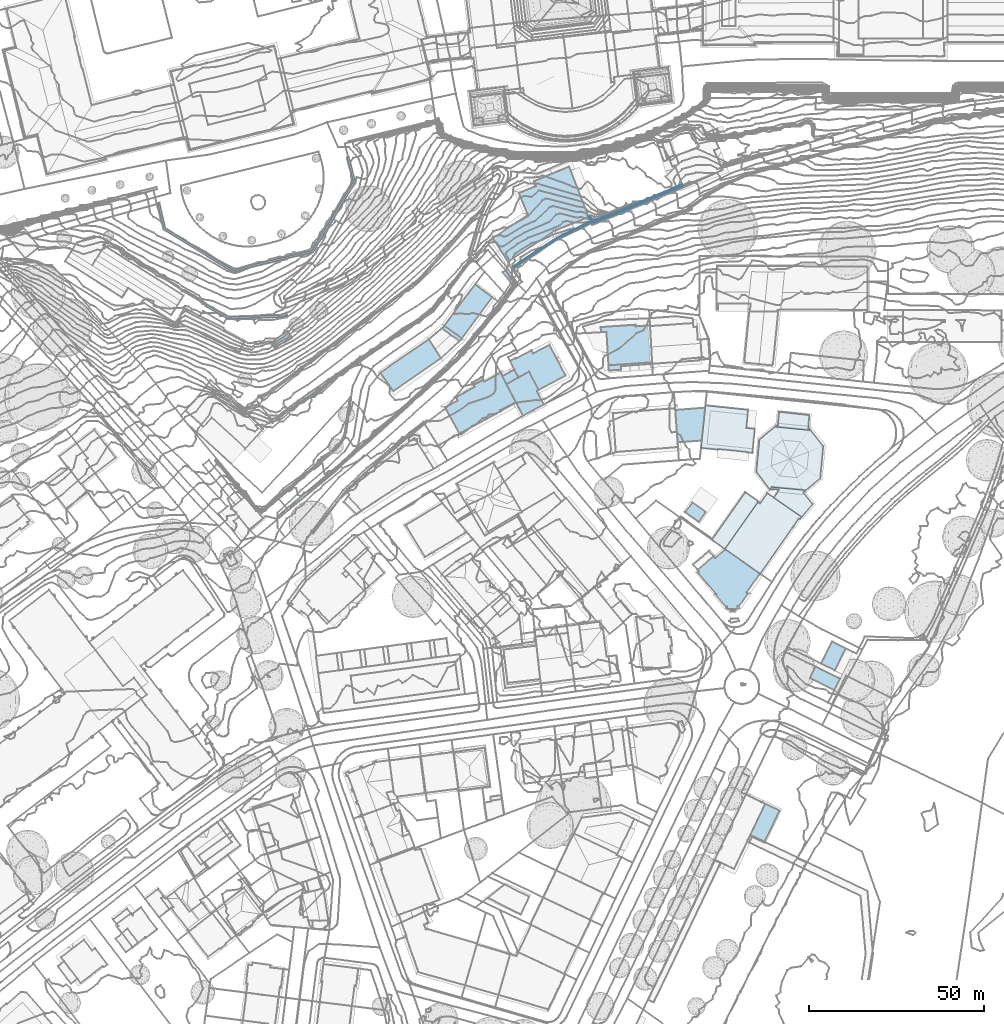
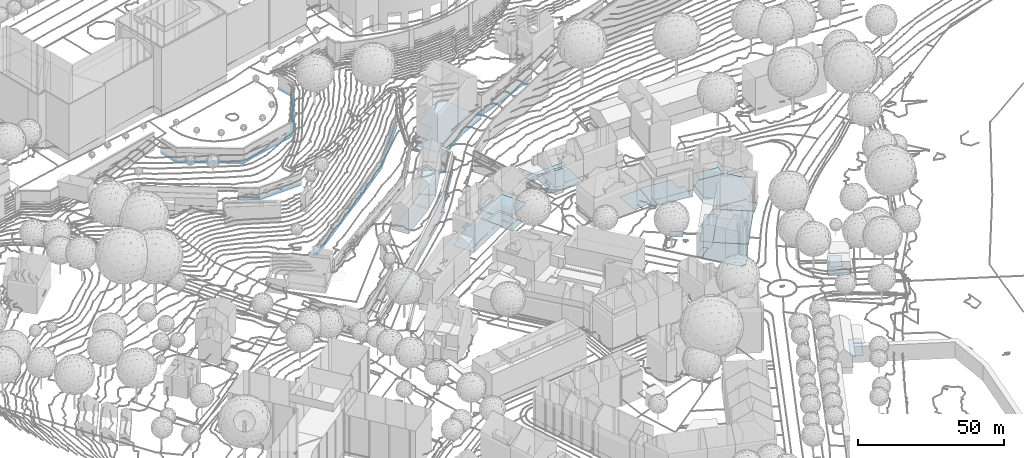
# Not in any storey, part 15 of 477: 22 footings.
"""IFC4 building model written with IfcOpenShell, lengths in metres."""

from ifc_helpers import new_model, si_unit, frame, origin_with_axes, place, context, subcontext, project, spatial, polygons, element, save


model = new_model("IFC4")

# Units and contexts
model_context = context("Model", 3, precision=1e-05, world=origin_with_axes())
body_context = subcontext(model_context, "Body", "Model", "MODEL_VIEW")
ifc_project = project(units=[si_unit("AREAUNIT", "SQUARE_METRE"), si_unit("LENGTHUNIT", "METRE")], contexts=[model_context])

# Sites, building
site_1_placement = place(None, origin_with_axes())
site_1 = spatial("IfcSite", under=ifc_project, at=site_1_placement, Name="Topoexport Site")
site_2_placement = place(site_1_placement, origin_with_axes())
site_2 = spatial("IfcSite", under=site_1, at=site_2_placement, Name="TPX_BUILDINGS")
building_1_placement = place(site_2_placement, frame((211.8297320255, 101.9383160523, 526.7541), z_axis=(0.0, 0.0, 1.0), x_axis=(1.0, 0.0, 0.0)))
building_1 = spatial("IfcBuilding", under=site_2, at=building_1_placement, Name="Building 18", CompositionType="ELEMENT")

# Footings
footing_1_placement = place(None, frame((211.8297320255, 101.9383160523, 526.7541), z_axis=(0.0, 0.0, 1.0), x_axis=(1.0, 0.0, 0.0)))
element("IfcFooting", 1, at=footing_1_placement, inside=building_1, Name="Floor 4", context=body_context, shape_type="Tessellation", body=[
    polygons([(284.7970000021, 194.6561999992, -16.5874), (284.3350000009, 195.1387000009, -16.5874), (295.9990000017, 209.7382999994, -16.5874), (276.4550000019, 188.9882999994, -16.5874), (295.4700000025, 210.1308000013, -16.5874), (261.8630000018, 179.3418000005, -16.5874), (261.4940000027, 179.8867000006, -16.5874), (276.0890000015, 189.5351000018, -16.5874), (246.1209999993, 169.2197000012, -16.5874), (246.507000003, 168.6854999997, -16.5874), (238.7470000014, 162.8436999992, -16.5874), (238.8200000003, 163.7226000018, -16.5874), (237.4409999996, 164.2217000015, -16.5874), (237.9189999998, 164.6748000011, -16.5874)], [[[1, 2, 3]], [[1, 4, 2]], [[2, 5, 3]], [[6, 7, 8]], [[8, 4, 6]], [[4, 8, 2]], [[9, 7, 10]], [[10, 11, 9]], [[12, 13, 14]], [[13, 12, 11]], [[9, 11, 12]], [[6, 10, 7]]]),
])
footing_2_placement = place(None, frame((211.8297320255, 101.9383160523, 526.7541), z_axis=(0.0, 0.0, 1.0), x_axis=(1.0, 0.0, 0.0)))
element("IfcFooting", 2, at=footing_2_placement, inside=building_1, Name="Floor 5", context=body_context, shape_type="Tessellation", body=[
    polygons([(266.4130000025, 158.3603000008, -22.4069), (277.0140000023, 168.0282999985, -22.4069), (266.8460000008, 157.8671999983, -22.4069), (287.8159999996, 177.9228000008, -22.4069), (288.2660000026, 177.4453000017, -22.4069), (277.4560000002, 167.5439000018, -22.4069), (293.1660000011, 183.120099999, -22.4069), (240.4620000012, 136.3828000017, -22.4069), (254.4750000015, 148.25, -22.4069), (240.8580000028, 135.8594000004, -22.4069), (254.8990000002, 147.7490000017, -22.4069), (308.4230000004, 202.2080000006, -22.4068), (307.4979999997, 202.1981999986, -22.4068), (305.4220000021, 206.5194999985, -22.4068), (299.9330000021, 191.4316000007, -22.4068), (299.4210000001, 191.8407999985, -22.4068), (304.5190000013, 205.878899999, -22.4068), (292.7030000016, 183.5439000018, -22.4069), (293.6009999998, 183.6112999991, -22.4069), (294.1209999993, 183.1347000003, -22.4069)], [[[1, 2, 3]], [[4, 5, 6]], [[6, 2, 4]], [[4, 7, 5]], [[2, 6, 3]], [[8, 9, 10]], [[11, 9, 1]], [[1, 3, 11]], [[11, 10, 9]], [[12, 13, 14]], [[13, 15, 16]], [[13, 17, 14]], [[13, 12, 15]], [[18, 19, 7]], [[18, 16, 19]], [[20, 7, 19]], [[15, 19, 16]], [[20, 5, 7]]]),
])
footing_3_placement = place(None, frame((211.8297320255, 101.9383160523, 526.7541), z_axis=(0.0, 0.0, 1.0), x_axis=(1.0, 0.0, 0.0)))
element("IfcFooting", 3, at=footing_3_placement, inside=building_1, Name="Floor 7", context=body_context, shape_type="Tessellation", body=[
    polygons([(320.1950000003, 215.5537, -18.1852), (307.6610000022, 207.3280999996, -18.1852), (307.4640000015, 207.6141999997, -18.1852), (320.0240000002, 215.8564000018, -18.1852), (329.7860000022, 220.5009999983, -18.1852), (329.9350000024, 220.1884999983, -18.1852), (329.8200000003, 220.1338, -16.7574), (329.9350000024, 220.1884999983, -16.7574), (329.9260000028, 219.8671999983, -16.7574), (336.6920000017, 222.4492000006, -16.7574), (336.4900000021, 222.9530999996, -16.7574), (345.7250000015, 226.2470999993, -16.7574), (345.5150000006, 226.7470999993, -16.7574), (356.0329999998, 230.5771000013, -16.7574), (330.2320000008, 220.5643999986, -16.7574), (329.1080000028, 221.9189000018, -16.7574), (329.7860000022, 220.5009999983, -16.7574), (329.6909999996, 220.4560000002, -16.7574), (329.6119999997, 222.120099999, -16.7574), (355.8230000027, 231.0771000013, -16.7574)], [[[1, 2, 3]], [[3, 4, 1]], [[5, 6, 1]], [[1, 4, 5]], [[7, 8, 9]], [[8, 10, 9]], [[10, 11, 12]], [[12, 11, 13]], [[13, 14, 12]], [[8, 11, 10]], [[15, 11, 8]], [[16, 17, 18]], [[16, 19, 17]], [[15, 8, 17]], [[15, 17, 19]], [[20, 14, 13]]]),
])
footing_4_placement = place(None, frame((211.8297320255, 101.9383160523, 526.7541), z_axis=(0.0, 0.0, 1.0), x_axis=(1.0, 0.0, 0.0)))
element("IfcFooting", 4, at=footing_4_placement, inside=building_1, Name="Floor 9", context=body_context, shape_type="Tessellation", body=[
    polygons([(265.126000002, 191.5458999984, -11.8918), (280.6090000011, 204.1055000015, -11.8918), (280.9480000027, 203.7412, -11.8918), (297.9340000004, 223.4833999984, -11.8918), (298.3029999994, 223.1532999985, -11.8918), (264.8280000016, 191.9404000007, -11.8918), (234.7090000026, 170.1854999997, -11.8918), (235.6860000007, 170.3574000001, -11.8918), (235.7670000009, 169.8007999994, -11.8918), (234.8790000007, 170.6504000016, -11.8918)], [[[1, 2, 3]], [[4, 5, 3]], [[3, 2, 4]], [[1, 6, 2]], [[7, 8, 9]], [[6, 9, 8]], [[8, 7, 10]], [[6, 1, 9]]]),
])
footing_5_placement = place(None, frame((211.8297320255, 101.9383160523, 526.7541), z_axis=(0.0, 0.0, 1.0), x_axis=(1.0, 0.0, 0.0)))
element("IfcFooting", 5, at=footing_5_placement, inside=building_1, Name="Floor 21", context=body_context, shape_type="Tessellation", body=[
    polygons([(243.0360000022, 193.1904000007, 0.835), (226.2320000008, 193.1942999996, 0.835), (243.0140000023, 193.7958999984, 0.835), (226.0840000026, 192.5819999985, 0.835), (219.6790000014, 196.1660000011, 0.835), (219.9750000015, 196.6953000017, 0.835)], [[[1, 2, 3]], [[1, 4, 2]], [[5, 6, 2]], [[2, 4, 5]]]),
])
footing_6_placement = place(None, frame((211.8297320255, 101.9383160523, 526.7541), z_axis=(0.0, 0.0, 1.0), x_axis=(1.0, 0.0, 0.0)))
element("IfcFooting", 6, at=footing_6_placement, inside=building_1, Name="Floor 23", context=body_context, shape_type="Tessellation", body=[
    polygons([(250.3399999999, 211.5986000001, 7.5874), (249.9810000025, 212.0956999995, 7.5874), (255.6390000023, 220.4023000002, 7.5874), (246.5879999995, 210.7558000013, 7.5874), (246.4610000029, 211.3057000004, 7.5874), (238.7939999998, 209.4706999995, 7.5874), (255.1559999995, 220.6933000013, 7.5874), (261.8560000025, 231.7558000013, 7.5874), (262.4620000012, 231.6669999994, 7.5874), (260.0400000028, 238.6777000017, 7.5874), (260.5860000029, 238.8203000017, 7.5874), (227.5439999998, 205.8671999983, 7.5874), (227.620000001, 206.4824000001, 7.5874), (231.375, 207.0731999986, 7.5874), (207.700000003, 218.0762000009, 7.5874), (208.1950000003, 218.4345999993, 7.5874), (205.9340000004, 225.5936999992, 7.5874), (231.2230000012, 207.6162, 7.5874), (238.9260000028, 208.9228000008, 7.5874), (206.4830000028, 225.7226000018, 7.5874)], [[[1, 2, 3]], [[1, 4, 2]], [[2, 4, 5]], [[4, 6, 5]], [[2, 7, 3]], [[3, 8, 9]], [[10, 11, 8]], [[3, 7, 8]], [[11, 9, 8]], [[12, 13, 14]], [[15, 16, 13]], [[13, 12, 15]], [[15, 17, 16]], [[13, 18, 14]], [[6, 4, 19]], [[14, 6, 19]], [[16, 17, 20]], [[18, 6, 14]]]),
])

# Building
building_2_placement = place(site_2_placement, frame((450.1807320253, 287.7430160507, 522.8345), z_axis=(0.0, 0.0, 1.0), x_axis=(1.0, 0.0, 0.0)))
building_2 = spatial("IfcBuilding", under=site_2, at=building_2_placement, Name="Building 103", CompositionType="ELEMENT")

# Footing
footing_7_placement = place(None, frame((450.1807320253, 287.7430160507, 522.8345), z_axis=(0.0, 0.0, 1.0), x_axis=(1.0, 0.0, 0.0)))
element("IfcFooting", 7, at=footing_7_placement, inside=building_2, Name="Floor 0", context=body_context, shape_type="Tessellation", body=[
    polygons([(5.8729999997, 1.6406000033, 0.0), (0.0, 0.0, 0.0), (4.745000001, 3.2754000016, 0.0), (1.120000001, -1.6415999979, 0.0)], [[[1, 2, 3]], [[2, 1, 4]]]),
])

# Building
building_3_placement = place(site_2_placement, frame((495.292732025, 288.7264160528, 509.5088), z_axis=(0.0, 0.0, 1.0), x_axis=(1.0, 0.0, 0.0)))
building_3 = spatial("IfcBuilding", under=site_2, at=building_3_placement, Name="Building 110", CompositionType="ELEMENT")

# Footing
footing_8_placement = place(None, frame((495.292732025, 288.7264160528, 509.5088), z_axis=(0.0, 0.0, 1.0), x_axis=(1.0, 0.0, 0.0)))
element("IfcFooting", 8, at=footing_8_placement, inside=building_3, Name="Floor 0", context=body_context, shape_type="Tessellation", body=[
    polygons([(18.0950000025, 11.9628999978, 0.033), (6.9270000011, 1.9765000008, 0.033), (13.1390000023, 15.6396000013, 0.033), (4.3840000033, 3.8319999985, 0.033), (9.3670000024, 0.1933000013, 0.033), (3.4780000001, -5.3946000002, 0.0), (4.3840000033, 3.8319999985, 0.0), (9.0329999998, -0.2578000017, 0.0), (9.3670000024, 0.1933000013, 0.0), (0.0, 0.0, 0.0), (4.1290000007, 3.4891999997, 0.0)], [[[1, 2, 3]], [[4, 3, 2]], [[2, 1, 5]], [[6, 7, 8]], [[9, 8, 7]], [[6, 10, 11]], [[7, 6, 11]]]),
])

# Building
building_4_placement = place(site_2_placement, frame((481.4457320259, 279.2078160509, 509.1578), z_axis=(0.0, 0.0, 1.0), x_axis=(1.0, 0.0, 0.0)))
building_4 = spatial("IfcBuilding", under=site_2, at=building_4_placement, Name="Building 111", CompositionType="ELEMENT")

# Footing
footing_9_placement = place(None, frame((481.4457320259, 279.2078160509, 509.1578), z_axis=(0.0, 0.0, 1.0), x_axis=(1.0, 0.0, 0.0)))
element("IfcFooting", 9, at=footing_9_placement, inside=building_4, Name="Floor 0", context=body_context, shape_type="Tessellation", body=[
    polygons([(17.3249999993, 4.1240000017, 0.0), (3.6920000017, -5.3563999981, 0.0), (15.6600000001, 6.7061000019, 0.0), (13.8469999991, 9.5186000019, 0.0), (0.0, 0.0, 0.0)], [[[1, 2, 3]], [[4, 2, 5]], [[4, 3, 2]]]),
])

# Building
building_5_placement = place(site_2_placement, frame((499.9197320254, 269.244916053, 502.2044), z_axis=(0.0, 0.0, 1.0), x_axis=(1.0, 0.0, 0.0)))
building_5 = spatial("IfcBuilding", under=site_2, at=building_5_placement, Name="Building 113", CompositionType="ELEMENT")

# Footing
footing_10_placement = place(None, frame((499.9197320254, 269.244916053, 502.2044), z_axis=(0.0, 0.0, 1.0), x_axis=(1.0, 0.0, 0.0)))
element("IfcFooting", 10, at=footing_10_placement, inside=building_5, Name="Floor 0", context=body_context, shape_type="Tessellation", body=[
    polygons([(10.8530000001, 7.808600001, 0.4), (9.9110000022, 8.2831999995, 0.4), (10.4600000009, 8.5225000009, 0.4), (10.3330000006, 8.5137000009, 0.4), (8.9860000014, 7.7753999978, 0.4), (7.7820000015, 7.0273999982, 0.4), (7.8949999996, 7.1777999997, 0.4), (8.1720000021, 6.3427999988, 0.4), (17.8159999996, 6.1415999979, 0.0), (18.7440000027, 4.3603999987, 0.0), (3.6400000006, 1.9873000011, 0.0), (8.4600000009, 5.8359999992, 0.0), (16.3690000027, 8.9219000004, 0.0), (20.3120000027, 1.3476999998, 0.0), (4.5670000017, -7.2655999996, 0.0), (16.5360000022, 9.0126999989, 0.0), (16.0329999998, 9.9794999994, 0.0), (11.1229999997, 7.3193999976, 0.0), (10.8540000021, 7.808600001, 0.0), (8.1720000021, 6.3427999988, 0.0), (4.0800000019, -7.3993999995, 0.0), (4.2060000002, -7.6269000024, 0.0), (4.6339999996, -7.3885999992, 0.0), (3.3520000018, 2.5077999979, 0.0), (3.2369999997, 2.9638999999, 0.0), (3.132000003, 2.9063000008, 0.0), (0.0, 0.0, 0.0)], [[[1, 2, 3]], [[2, 4, 3]], [[5, 2, 1]], [[6, 5, 1]], [[5, 6, 7]], [[1, 8, 6]], [[9, 10, 11]], [[12, 13, 11]], [[10, 14, 15]], [[11, 13, 9]], [[16, 13, 17]], [[13, 18, 17]], [[12, 19, 18]], [[20, 19, 12]], [[12, 18, 13]], [[21, 10, 15]], [[22, 15, 23]], [[15, 22, 21]], [[10, 21, 11]], [[12, 24, 25]], [[26, 25, 24]], [[11, 24, 12]], [[27, 11, 21]]]),
])

# Building
building_6_placement = place(site_2_placement, frame((516.2887320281, 278.1668160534, 502.5014), z_axis=(0.0, 0.0, 1.0), x_axis=(1.0, 0.0, 0.0)))
building_6 = spatial("IfcBuilding", under=site_2, at=building_6_placement, Name="Building 114", CompositionType="ELEMENT")

# Footing
footing_11_placement = place(None, frame((516.2887320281, 278.1668160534, 502.5014), z_axis=(0.0, 0.0, 1.0), x_axis=(1.0, 0.0, 0.0)))
element("IfcFooting", 11, at=footing_11_placement, inside=building_6, Name="Floor 0", context=body_context, shape_type="Tessellation", body=[
    polygons([(13.4129999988, 8.9375, -0.154), (15.7559999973, 4.5341999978, -0.154), (7.6559999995, 1.2793000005, -0.154), (8.7839999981, 6.4756000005, -0.154), (3.8789999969, 5.0106999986, -0.154), (8.3099999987, 7.3682000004, -0.154), (18.0879999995, 0.1620999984, -0.154), (10.3880000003, -3.9326000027, -0.154), (4.4599999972, -0.0439000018, -0.154), (4.618999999, -0.379900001, -0.154), (3.4849999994, 1.9081999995, -0.154), (3.3990000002, 1.8612999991, -0.154), (2.1789999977, 4.365199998, -0.154), (3.7859999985, 5.1845999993, -0.154), (3.3990000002, 1.8612999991, 0.0), (4.4609999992, -0.0459000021, 0.0), (2.7630000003, 1.5126999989, 0.0), (4.618999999, -0.379900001, 0.0), (1.1769999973, -2.2607000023, 0.0), (0.0, 0.0, 0.0), (8.8449999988, -9.7090000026, -0.8259), (4.1030000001, -0.6621000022, -0.8259), (9.8539999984, -4.2168000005, -0.8259), (11.9019999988, -8.0692999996, -0.8259), (5.8829999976, -11.2988000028, -0.8259), (1.1769999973, -2.2607000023, -0.8259), (7.6559999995, 1.2793000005, -0.8259), (10.3880000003, -3.9326000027, -0.8259)], [[[1, 2, 3]], [[4, 1, 3]], [[3, 5, 4]], [[5, 6, 4]], [[2, 7, 8]], [[3, 2, 8]], [[9, 3, 10]], [[9, 11, 3]], [[9, 12, 11]], [[5, 13, 14]], [[5, 11, 13]], [[3, 11, 5]], [[15, 16, 17]], [[16, 18, 19]], [[20, 16, 19]], [[16, 20, 17]], [[21, 22, 23]], [[24, 21, 23]], [[25, 26, 21]], [[23, 22, 27]], [[23, 27, 28]], [[21, 26, 22]]]),
])

# Building
building_7_placement = place(site_2_placement, frame((513.5957320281, 317.6404160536, 509.4928), z_axis=(0.0, 0.0, 1.0), x_axis=(1.0, 0.0, 0.0)))
building_7 = spatial("IfcBuilding", under=site_2, at=building_7_placement, Name="Building 116", CompositionType="ELEMENT")

# Footing
footing_12_placement = place(None, frame((513.5957320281, 317.6404160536, 509.4928), z_axis=(0.0, 0.0, 1.0), x_axis=(1.0, 0.0, 0.0)))
element("IfcFooting", 12, at=footing_12_placement, inside=building_7, Name="Floor 0", context=body_context, shape_type="Tessellation", body=[
    polygons([(21.7850000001, 20.3691999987, 0.0), (20.7049999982, 3.3037, 0.0), (18.0879999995, 2.2460999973, 0.0), (24.5729999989, 4.8662, 0.0), (27.3729999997, 5.9970999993, 0.0), (12.2809999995, 14.8202999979, 0.0), (18.943, 19.1992999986, 0.0), (9.9549999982, 6.7265999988, 0.0), (12.0859999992, 15.2949999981, 0.0), (11.7060000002, 16.2216999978, 0.0), (14.2579999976, 17.2714999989, 0.0), (9.8909999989, 13.8359999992, 0.0), (17.5299999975, 2.0205000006, 0.0), (4.3129999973, -6.7373000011, 0.0), (10.0130000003, 6.5868999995, 0.0), (2.1219999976, -3.3144000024, 0.0), (0.0, 0.0, 0.0), (7.4450000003, 12.8290999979, 0.0), (7.6369999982, 12.9081999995, 0.0)], [[[1, 2, 3]], [[4, 2, 1]], [[1, 5, 4]], [[6, 7, 1]], [[6, 1, 8]], [[9, 10, 11]], [[11, 6, 9]], [[11, 7, 6]], [[8, 12, 6]], [[13, 1, 3]], [[13, 14, 15]], [[15, 14, 16]], [[16, 17, 15]], [[8, 18, 19]], [[12, 8, 19]], [[8, 1, 15]], [[1, 13, 15]]]),
])

# Building
building_8_placement = place(site_2_placement, frame((539.2757320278, 292.3553160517, 501.0115), z_axis=(0.0, 0.0, 1.0), x_axis=(1.0, 0.0, 0.0)))
building_8 = spatial("IfcBuilding", under=site_2, at=building_8_placement, Name="Building 117", CompositionType="ELEMENT")

# Footing
footing_13_placement = place(None, frame((539.2757320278, 292.3553160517, 501.0115), z_axis=(0.0, 0.0, 1.0), x_axis=(1.0, 0.0, 0.0)))
element("IfcFooting", 13, at=footing_13_placement, inside=building_8, Name="Floor 0", context=body_context, shape_type="Tessellation", body=[
    polygons([(7.3399999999, -11.1230999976, -0.6799), (10.862999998, -11.3583999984, -0.6799), (7.430999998, -12.6279999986, -0.6799), (19.8090000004, -10.2588, -0.6799), (10.9379999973, -12.3887000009, -0.6799), (19.8339999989, -10.7012000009, -0.6799), (15.112999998, 0.0155999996, 0.0), (15.0810000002, 0.4803999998, 0.0), (19.2049999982, 0.2987999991, 0.0), (16.0590000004, 2.1865000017, 0.0), (19.0889999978, 2.3242000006, 0.0), (11.5989999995, 1.9844000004, 0.0), (0.9129999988, -1.9081999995, 0.0), (5.1039999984, -0.2100000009, 0.0), (5.2049999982, -1.6728999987, 0.0), (0.0, 0.0, 0.0), (6.5359999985, 1.754900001, 0.0), (5.1039999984, -0.2100000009, -0.6719), (6.7630000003, -1.5878999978, -0.6719), (5.2049999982, -1.6728999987, -0.6719), (15.0810000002, 0.4803999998, -0.6719), (7.231999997, -9.3310999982, -0.6719), (19.8090000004, -10.2588, -0.6719), (7.3399999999, -11.1230999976, -0.6719), (7.0599999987, -6.4941999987, -0.6719), (15.112999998, 0.0155999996, -0.6719), (6.8220000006, -2.557599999, -0.6719), (19.2049999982, 0.2987999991, -0.6719), (19.3189999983, -1.692400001, -0.6719), (19.7060000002, -8.4677999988, -0.6719), (19.5439999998, -5.629900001, -0.6719)], [[[1, 2, 3]], [[1, 4, 2]], [[2, 5, 3]], [[2, 4, 6]], [[7, 8, 9]], [[8, 10, 11]], [[11, 9, 8]], [[8, 12, 10]], [[13, 14, 15]], [[13, 16, 14]], [[8, 14, 16]], [[16, 17, 12]], [[8, 16, 12]], [[18, 19, 20]], [[18, 21, 19]], [[22, 23, 24]], [[25, 26, 22]], [[25, 27, 26]], [[26, 27, 19]], [[26, 19, 21]], [[28, 29, 26]], [[22, 30, 23]], [[30, 26, 31]], [[29, 31, 26]], [[22, 26, 30]]]),
])

# Building
building_9_placement = place(site_2_placement, frame((586.985732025, 146.8299160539, 499.5454), z_axis=(0.0, 0.0, 1.0), x_axis=(1.0, 0.0, 0.0)))
building_9 = spatial("IfcBuilding", under=site_2, at=building_9_placement, Name="Building 169", CompositionType="ELEMENT")

# Footing
footing_14_placement = place(None, frame((586.985732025, 146.8299160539, 499.5454), z_axis=(0.0, 0.0, 1.0), x_axis=(1.0, 0.0, 0.0)))
element("IfcFooting", 14, at=footing_14_placement, inside=building_9, Name="Floor 0", context=body_context, shape_type="Tessellation", body=[
    polygons([(4.0789999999, -1.9502000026, 0.0), (0.0, 0.0, 0.0), (4.3710000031, 9.1425999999, 0.0), (8.4470000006, 7.1893999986, 0.0)], [[[1, 2, 3]], [[4, 1, 3]]]),
])

# Building
building_10_placement = place(site_2_placement, frame((604.1217320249, 191.883616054, 499.7615), z_axis=(0.0, 0.0, 1.0), x_axis=(1.0, 0.0, 0.0)))
building_10 = spatial("IfcBuilding", under=site_2, at=building_10_placement, Name="Building 171", CompositionType="ELEMENT")

# Footing
footing_15_placement = place(None, frame((604.1217320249, 191.883616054, 499.7615), z_axis=(0.0, 0.0, 1.0), x_axis=(1.0, 0.0, 0.0)))
element("IfcFooting", 15, at=footing_15_placement, inside=building_10, Name="Floor 0", context=body_context, shape_type="Tessellation", body=[
    polygons([(0.0, 0.0, 0.0), (1.5960000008, 3.253899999, 0.0), (4.506000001, 1.8192999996, 0.0001), (8.5789999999, -0.1904000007, 0.0001), (6.9760000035, -3.4414000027, 0.0001)], [[[1, 2, 3]], [[4, 5, 3]], [[5, 1, 3]]]),
])

# Building
building_11_placement = place(site_2_placement, frame((607.3027320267, 196.0164160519, 499.6766), z_axis=(0.0, 0.0, 1.0), x_axis=(1.0, 0.0, 0.0)))
building_11 = spatial("IfcBuilding", under=site_2, at=building_11_placement, Name="Building 172", CompositionType="ELEMENT")

# Footing
footing_16_placement = place(None, frame((607.3027320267, 196.0164160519, 499.6766), z_axis=(0.0, 0.0, 1.0), x_axis=(1.0, 0.0, 0.0)))
element("IfcFooting", 16, at=footing_16_placement, inside=building_11, Name="Floor 0", context=body_context, shape_type="Tessellation", body=[
    polygons([(6.0029999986, 2.2256000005, 0.0), (3.1039999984, 6.2949000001, 0.0), (7.0560000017, 4.3603999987, 0.0), (1.2859999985, 2.6084000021, 0.0), (3.9450000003, -1.9463, 0.0), (0.0, 0.0, 0.0)], [[[1, 2, 3]], [[4, 2, 1]], [[5, 4, 1]], [[4, 5, 6]]]),
])

# Building
building_12_placement = place(site_2_placement, frame((573.0317320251, 257.6658160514, 499.7226), z_axis=(0.0, 0.0, 1.0), x_axis=(1.0, 0.0, 0.0)))
building_12 = spatial("IfcBuilding", under=site_2, at=building_12_placement, Name="Building 175", CompositionType="ELEMENT")

# Footing
footing_17_placement = place(None, frame((573.0317320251, 257.6658160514, 499.7226), z_axis=(0.0, 0.0, 1.0), x_axis=(1.0, 0.0, 0.0)))
element("IfcFooting", 17, at=footing_17_placement, inside=building_12, Name="Floor 0", context=body_context, shape_type="Tessellation", body=[
    polygons([(4.8920000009, -0.3202999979, 0.0), (0.0, 0.0, 0.0), (1.2609999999, 12.1338, 0.0), (12.9260000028, 5.6963, 0.0), (4.8740000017, -0.498999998, 0.0), (15.3509999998, 5.4209000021, 0.0), (13.2760000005, -1.1875, 0.0), (13.4410000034, 10.8672000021, 0.0), (14.6590000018, -1.4648000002, 0.0), (13.2630000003, -1.3143999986, 0.0)], [[[1, 2, 3]], [[3, 4, 1]], [[5, 2, 1]], [[6, 7, 4]], [[4, 3, 8]], [[9, 10, 7]], [[7, 6, 9]], [[1, 4, 7]]]),
])

# Building
building_13_placement = place(site_2_placement, frame((565.6917320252, 268.4637160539, 499.7686), z_axis=(0.0, 0.0, 1.0), x_axis=(1.0, 0.0, 0.0)))
building_13 = spatial("IfcBuilding", under=site_2, at=building_13_placement, Name="Building 176", CompositionType="ELEMENT")

# Footing
footing_18_placement = place(None, frame((565.6917320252, 268.4637160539, 499.7686), z_axis=(0.0, 0.0, 1.0), x_axis=(1.0, 0.0, 0.0)))
element("IfcFooting", 18, at=footing_18_placement, inside=building_13, Name="Floor 0", context=body_context, shape_type="Tessellation", body=[
    polygons([(8.5320000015, 0.672799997, 0.0), (7.557, -8.7110000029, 0.0), (0.0, 0.0, 0.0), (0.6770000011, -9.25, 0.0)], [[[1, 2, 3]], [[4, 3, 2]]]),
])

# Building
building_14_placement = place(site_2_placement, frame((568.5307320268, 239.2557160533, 500.0015), z_axis=(0.0, 0.0, 1.0), x_axis=(1.0, 0.0, 0.0)))
building_14 = spatial("IfcBuilding", under=site_2, at=building_14_placement, Name="Building 177", CompositionType="ELEMENT")

# Footing
footing_19_placement = place(None, frame((568.5307320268, 239.2557160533, 500.0015), z_axis=(0.0, 0.0, 1.0), x_axis=(1.0, 0.0, 0.0)))
element("IfcFooting", 19, at=footing_19_placement, inside=building_14, Name="Floor 0", context=body_context, shape_type="Tessellation", body=[
    polygons([(3.8200000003, -2.7285000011, 0.0), (0.0, 0.0, 0.0), (5.8289999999, 0.1122999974, 0.0), (2.0089999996, 2.8407999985, 0.0)], [[[1, 2, 3]], [[4, 3, 2]]]),
])

# Building
building_15_placement = place(site_2_placement, frame((576.0807320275, 231.3953160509, 499.9275), z_axis=(0.0, 0.0, 1.0), x_axis=(1.0, 0.0, 0.0)))
building_15 = spatial("IfcBuilding", under=site_2, at=building_15_placement, Name="Building 178", CompositionType="ELEMENT")

# Footing
footing_20_placement = place(None, frame((576.0807320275, 231.3953160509, 499.9275), z_axis=(0.0, 0.0, 1.0), x_axis=(1.0, 0.0, 0.0)))
element("IfcFooting", 20, at=footing_20_placement, inside=building_15, Name="Floor 0", context=body_context, shape_type="Tessellation", body=[
    polygons([(3.7049999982, -2.6054999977, -0.104), (13.7670000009, 10.3545000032, -0.104), (13.9780000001, -9.4511999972, -0.104), (13.1719999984, 10.7763999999, -0.104), (22.9230000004, 3.3438000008, -0.104), (23.3350000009, 3.8115000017, -0.104), (22.9800000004, 3.3037, -0.104), (14.0350000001, -9.490199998, -0.104), (13.8570000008, -9.7460999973, -0.104), (23.2780000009, 3.8516000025, -0.104), (24.8759999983, 6.1377000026, -0.104), (15.8699999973, 13.3252000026, -0.104), (25.6389999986, 6.5069000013, -0.104), (25.1459999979, 5.9483000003, -0.104), (13.175999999, 11.0420000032, 0.0), (13.0489999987, 10.8633000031, 0.0), (9.5909999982, 13.5888999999, 0.0), (0.0, 0.0, 0.0), (3.7049999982, -2.6054999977, 0.0), (13.1719999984, 10.7763999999, 0.0)], [[[1, 2, 3]], [[1, 4, 2]], [[5, 6, 7]], [[2, 5, 3]], [[3, 8, 9]], [[9, 1, 3]], [[2, 10, 5]], [[11, 2, 12]], [[12, 13, 11]], [[11, 10, 2]], [[5, 10, 6]], [[13, 14, 11]], [[15, 16, 17]], [[16, 18, 17]], [[18, 16, 19]], [[16, 20, 19]]]),
])

# Building
building_16_placement = place(site_2_placement, frame((588.8407320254, 250.8973160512, 499.7896), z_axis=(0.0, 0.0, 1.0), x_axis=(1.0, 0.0, 0.0)))
building_16 = spatial("IfcBuilding", under=site_2, at=building_16_placement, Name="Building 179", CompositionType="ELEMENT")

# Footing
footing_21_placement = place(None, frame((588.8407320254, 250.8973160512, 499.7896), z_axis=(0.0, 0.0, 1.0), x_axis=(1.0, 0.0, 0.0)))
element("IfcFooting", 21, at=footing_21_placement, inside=building_16, Name="Floor 0", context=body_context, shape_type="Tessellation", body=[
    polygons([(15.2780000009, 12.0604999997, 0.0), (19.0940000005, 7.3125, 0.0001), (15.2550000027, 11.8242000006, 0.0), (5.3949999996, 12.8047000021, 0.0), (4.3619999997, -4.4081999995, -0.0001), (13.5810000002, -5.2665999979, -0.0001), (0.8520000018, 9.1640000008, 0.0), (5.4030000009, 12.8808000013, 0.0), (0.0, 0.0, 0.0), (18.2330000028, -1.9589999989, 0.0), (13.8210000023, -5.5605999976, -0.0001), (3.882000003, -5.0859999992, -0.0001), (16.0960000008, -9.3554999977, -0.0301), (6.4990000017, -5.1972999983, -0.0301), (13.3599999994, -5.9365999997, -0.0301), (13.5810000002, -5.2665999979, -0.0301), (13.8210000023, -5.5605999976, -0.0301), (12.8790000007, -12.995099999, -0.0301), (3.882000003, -5.0859999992, -0.0301), (4.3619999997, -4.4081999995, -0.0301), (4.7740000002, -5.182599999, -0.0301), (4.8350000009, -4.9814999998, -0.0301), (4.9570000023, -7.4659000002, -0.0301), (15.2550000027, 11.8242000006, -0.02), (14.8020000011, 12.2890000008, -0.02), (15.2780000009, 12.0604999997, -0.02), (15.120000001, 12.2578000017, -0.02), (6.1400000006, 13.1533000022, -0.02), (5.3949999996, 12.8047000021, -0.02), (5.7809999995, 13.1894000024, -0.02), (5.4030000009, 12.8808000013, -0.02), (6.4900000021, 17.0428999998, -0.02), (15.1290000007, 16.1053999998, -0.02)], [[[1, 2, 3]], [[4, 3, 5]], [[6, 3, 2]], [[4, 7, 8]], [[7, 4, 9]], [[5, 9, 4]], [[6, 5, 3]], [[6, 10, 11]], [[9, 5, 12]], [[2, 10, 6]], [[13, 14, 15]], [[15, 16, 17]], [[15, 14, 16]], [[18, 14, 13]], [[19, 20, 21]], [[22, 20, 14]], [[22, 21, 20]], [[20, 16, 14]], [[14, 18, 23]], [[24, 25, 26]], [[27, 26, 25]], [[28, 25, 24]], [[28, 29, 30]], [[31, 30, 29]], [[24, 29, 28]], [[28, 32, 33]], [[33, 25, 28]]]),
])

# Building
building_17_placement = place(site_2_placement, frame((570.7887320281, 224.3660160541, 500.0575), z_axis=(0.0, 0.0, 1.0), x_axis=(1.0, 0.0, 0.0)))
building_17 = spatial("IfcBuilding", under=site_2, at=building_17_placement, Name="Building 180", CompositionType="ELEMENT")

# Footing
footing_22_placement = place(None, frame((570.7887320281, 224.3660160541, 500.0575), z_axis=(0.0, 0.0, 1.0), x_axis=(1.0, 0.0, 0.0)))
element("IfcFooting", 22, at=footing_22_placement, inside=building_17, Name="Floor 0", context=body_context, shape_type="Tessellation", body=[
    polygons([(1.2609999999, -1.5058000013, -0.126), (6.2729999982, 1.8329999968, -0.126), (1.7139999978, -2.0459000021, -0.126), (5.8310000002, 2.3525999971, -0.126), (9.0949999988, 4.3544999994, -0.126), (13.7659999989, 1.0693999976, -0.126), (8.936999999, 4.111399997, -0.126), (6.6219999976, -8.5019000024, -0.126), (1.3939999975, -2.3183000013, -0.126), (9.3599999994, -12.067400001, -0.126), (6.4609999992, -8.638600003, -0.126), (9.7079999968, -12.0293000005, -0.126), (9.7410000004, -12.5185000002, -0.126), (10.0209999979, -12.7861000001, -0.126), (12.6329999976, -11.9541000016, -0.126), (15.2189999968, -8.0205000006, -0.126), (19.1490000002, -2.7168000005, -0.126), (18.8530000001, -2.8740000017, -0.126), (13.0130000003, -11.9599000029, -0.126), (12.3819999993, -12.7656000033, -0.126), (12.6719999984, -12.442400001, -0.126), (18.9759999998, -2.9609000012, -0.126), (15.6030000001, -8.2910000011, -0.126), (5.8310000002, 2.3525999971, 0.0), (1.2609999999, -1.5058000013, 0.0), (4.5689999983, 3.8359999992, 0.0), (0.0, 0.0, 0.0), (12.6439999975, -12.0888000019, 0.048), (12.6329999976, -11.9541000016, 0.048), (12.6429999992, -11.9541000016, 0.048), (10.0789999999, -12.7861000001, 0.048), (11.8159999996, -13.3164000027, 0.048), (10.6289999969, -13.3262000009, 0.048), (12.356999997, -12.7656000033, 0.048)], [[[1, 2, 3]], [[1, 4, 2]], [[5, 6, 7]], [[2, 8, 3]], [[2, 7, 6]], [[8, 2, 6]], [[3, 8, 9]], [[8, 10, 11]], [[10, 8, 12]], [[13, 12, 14]], [[12, 15, 14]], [[16, 12, 8]], [[6, 16, 8]], [[17, 18, 6]], [[15, 16, 19]], [[20, 15, 21]], [[14, 15, 20]], [[18, 17, 22]], [[23, 19, 16]], [[16, 6, 18]], [[16, 15, 12]], [[24, 25, 26]], [[27, 26, 25]], [[28, 29, 30]], [[31, 32, 33]], [[32, 31, 34]]]),
])

save(model, "model.ifc")
